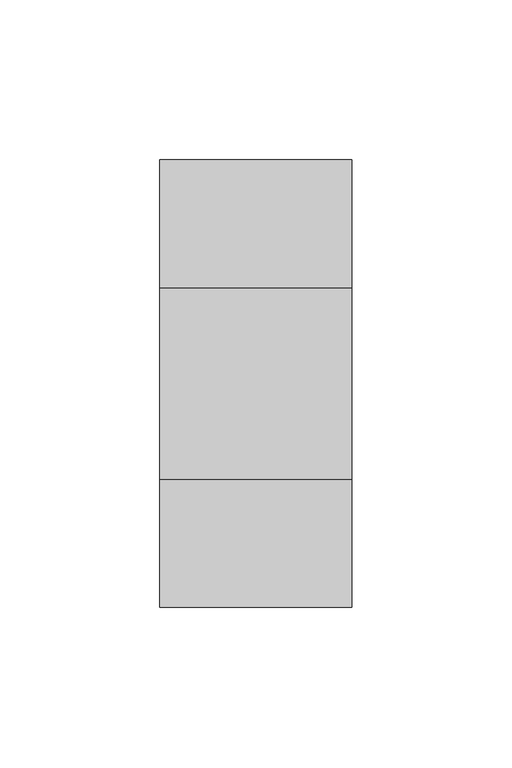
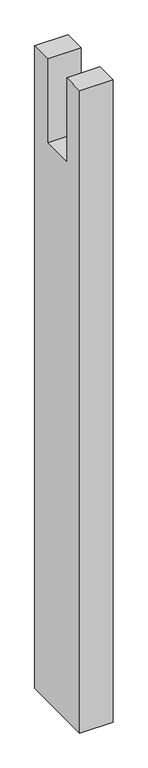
"""IFC4 building model written with IfcOpenShell, lengths in millimetres: proxy geometry, Modelos genéricos 148 : Modelos genéricos 11."""

from ifc_helpers import new_model, si_unit, frame, origin, place, context, project, spatial, polyline, outline, extrude, source, transform, mapped, element, save


def generic_models_ec78b08e(model_context):
    return source(origin(), model_context, "Body", "SweptSolid", [
        extrude(outline(polyline([(2018.6238165, 3160.0), (1878.6238165, 3160.0), (1878.6238165, 4380.0), (1918.6238165, 4380.0), (1918.6238165, 4220.0), (1978.6238165, 4220.0), (1978.6238165, 4380.0), (2018.6238165, 4380.0), (2018.6238165, 3160.0)])), frame((12873.4472467, 0.0, 0.0), z_axis=(1.0, 0.0, 0.0), x_axis=(0.0, 1.0, 0.0)), (0.0, 0.0, 1.0), 60.0),
    ])


if __name__ == "__main__":
    model = new_model("IFC4")
    model_context = context("Model", 3, world=origin())
    ifc_project = project(units=[si_unit("LENGTHUNIT", "METRE", prefix="MILLI")], contexts=[model_context])
    site = spatial("IfcSite", under=ifc_project)
    building = spatial("IfcBuilding", under=site)
    placement = place(None, origin())
    generic_models_shape = generic_models_ec78b08e(model_context)
    element("IfcBuildingElementProxy", 1, Name="Modelos genéricos 148 : Modelos genéricos 11", ObjectType="Modelos genéricos 148 : Modelos genéricos 11", at=placement, inside=building, context=model_context, shape_type="MappedRepresentation", body=[
        mapped(generic_models_shape, transform((0.0, 0.0, 0.0), x_axis=(1.0, 0.0, 0.0), y_axis=(0.0, 1.0, 0.0), z_axis=(0.0, 0.0, 1.0))),
    ])
    save(model, "model.ifc")
